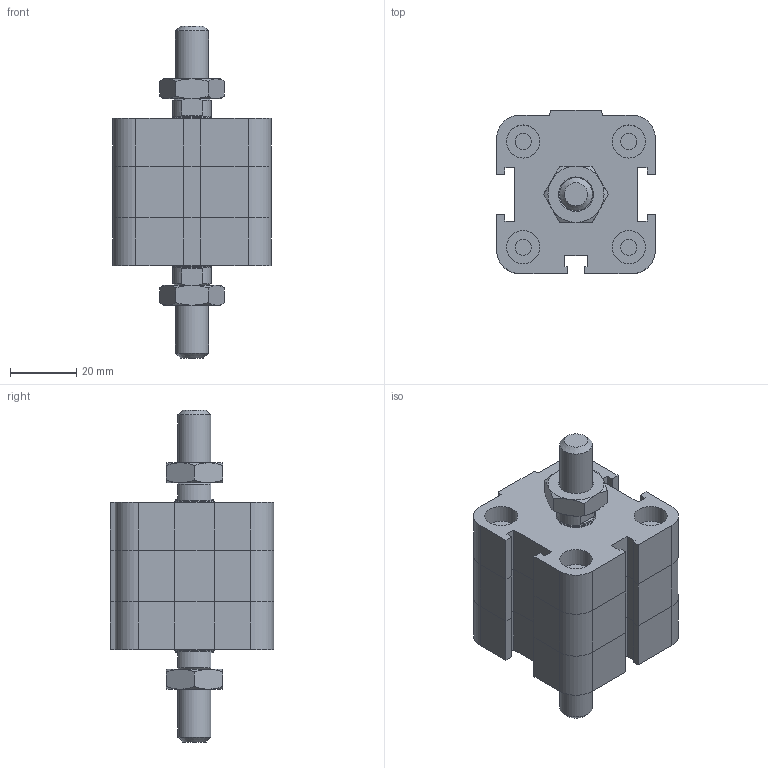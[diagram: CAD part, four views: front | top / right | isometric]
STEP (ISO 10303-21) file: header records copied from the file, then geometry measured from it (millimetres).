
FILE_DESCRIPTION((''),'2;1');
FILE_NAME('I:\Area Tecnica\Disegni\VARIE-3D\Componenti\EUROPE\15##_###_####_04_#\1581_32_0000_04_1.iam.stp','2009-04-20T14:50:46',(''),(''),'Autodesk Inventor 2009','Autodesk Inventor 2009','');
FILE_SCHEMA(('AUTOMOTIVE_DESIGN { 1 0 10303 214 1 1 1 1 }'));
Length unit declared in the file: millimetre
Products named in the file (4): 1581_32_0000_04_1; 1581_32_0000_03_1_C; 1561_32_0000_04_1_S; DBFM10
Assembly tree (4 placements, depth 2):
  1581_32_0000_04_1
    1581_32_0000_03_1_C
    1561_32_0000_04_1_S
    DBFM10  x2
Bounding box: 48 x 49.5 x 100.5 mm (x, y, z)
Volume: 93763.3 mm3; surface area: 24775.1 mm2
Topology: 4 solids, 4 shells, 222 faces, 483 edges, 289 vertices
Faces by surface type: plane 129, cone 35, bspline 33, cylinder 25
Full cylindrical faces by diameter (mm): 4.917 x4, 8.8 x1, 10 x5, 11.7 x2, 12 x1
Entity records: 5450 total; most frequent: CARTESIAN_POINT 1222, DIRECTION 802, ORIENTED_EDGE 772, EDGE_CURVE 386, AXIS2_PLACEMENT_3D 272, EDGE_LOOP 258, VECTOR 258, LINE 258
